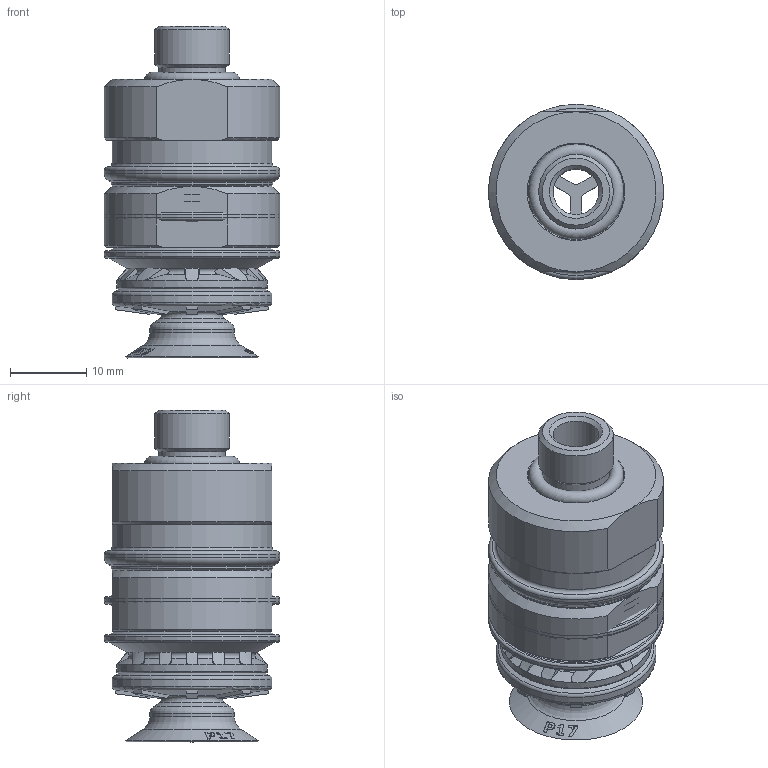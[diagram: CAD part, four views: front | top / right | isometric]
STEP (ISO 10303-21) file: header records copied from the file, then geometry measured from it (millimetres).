
FILE_DESCRIPTION( ( 'Unknown' ), '1' );
FILE_NAME( 'C:/Documents and Settings/Administrator/官帕 拳搁/Magic Cup (Dim)/B2.5/P TYPE/B2.5-20/B2.5-20-P17-N6-D-F2-18M.stp', 'Unknown', ( 'Unknown' ), ( 'Unknown' ), 'XStep 1.0', 'Unknown', ' ' );
FILE_SCHEMA( ( 'automotive_design' ) );
Length unit declared in the file: millimetre
Products named in the file (8): Assem1; Assem2; Assem3; 赤20 STOPPER ; P17; B2.5-20; 20-18M(DIM); 18M-Oring(DIM)
Bounding box: 23 x 23 x 43.59 mm (x, y, z)
Volume: 21665.9 mm3; surface area: 27769.9 mm2
Topology: 15 solids, 15 shells, 2067 faces, 5214 edges, 3270 vertices
Faces by surface type: bspline 606, plane 552, cone 378, torus 294, cylinder 237
Full cylindrical faces by diameter (mm): 6 x6, 8.8 x3, 9.2 x3, 9.8 x6, 11 x3, 11.099 x3, 11.9 x6, 12.4 x3, 13 x3, 13.4 x6, 14.475 x3, 15 x6, 15.673 x3, 15.7 x3, 16 x3, 17 x3, 17.5 x3, 17.527 x3, 19.8 x3, 21 x6, 21.18 x3, 23 x9
Entity records: 26406 total; most frequent: CARTESIAN_POINT 12423, ORIENTED_EDGE 3254, DIRECTION 2108, EDGE_CURVE 1627, VERTEX_POINT 1083, B_SPLINE_CURVE_WITH_KNOTS 957, AXIS2_PLACEMENT_3D 943, EDGE_LOOP 836
